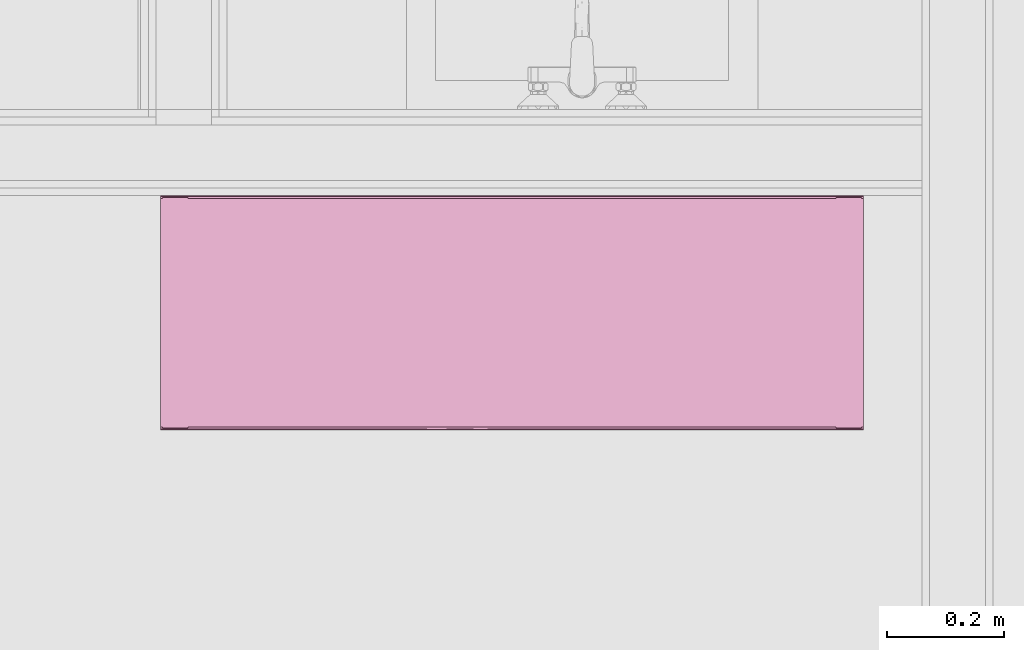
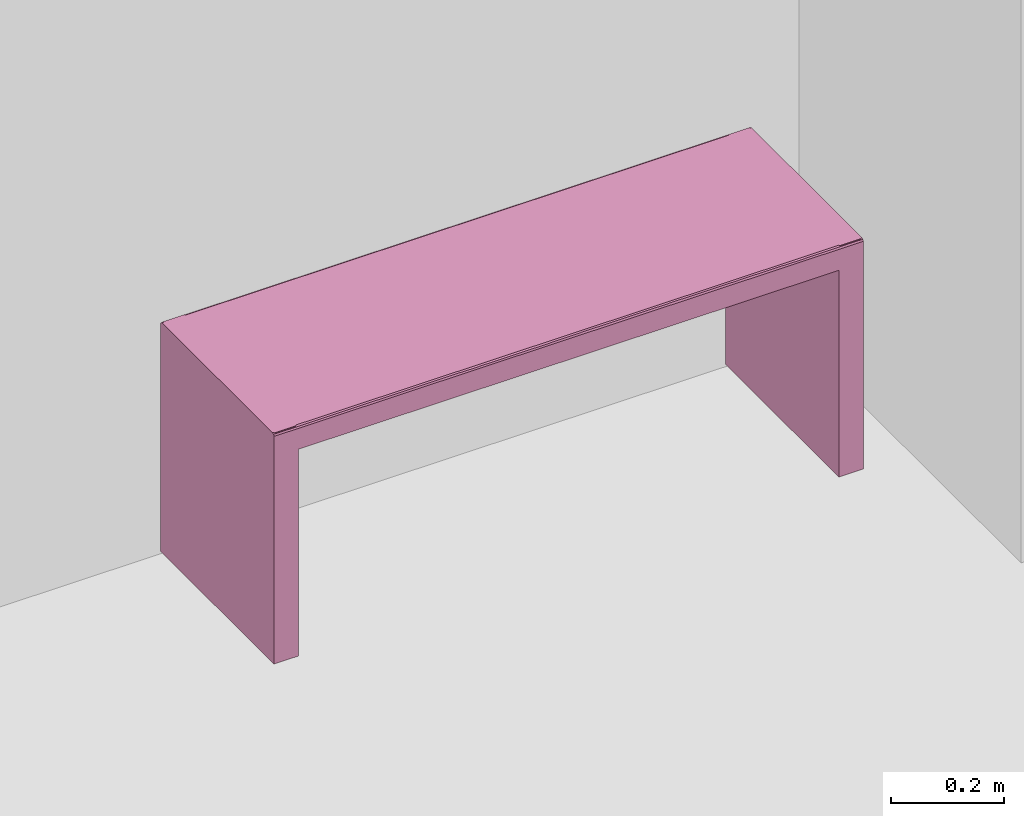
# One storey, part 35 of 67: 1 furniture element.
"""IFC4 building model written with IfcOpenShell, lengths in millimetres."""

from ifc_helpers import new_model, entity, si_unit, converted_unit, direction, frame, origin, place, context, subcontext, project, spatial, polygons, source, transform, mapped, material, type_object, type_shapes, element, save


model = new_model("IFC4")

# Units and contexts
model_context = context("Model", 3, precision=0.01, world=origin(), true_north=direction((0.0, 1.0)))
body_context = subcontext(model_context, "Body", "Model", "MODEL_VIEW")
ifc_project = project(units=[si_unit("LENGTHUNIT", "METRE", prefix="MILLI"), si_unit("AREAUNIT", "SQUARE_METRE"), si_unit("VOLUMEUNIT", "CUBIC_METRE"), converted_unit("PLANEANGLEUNIT", "DEGREE", entity("IfcPlaneAngleMeasure", 0.017453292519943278), si_unit("PLANEANGLEUNIT", "RADIAN"), dimensions=[0, 0, 0, 0, 0, 0, 0])], contexts=[model_context])

# Site, building, storey, space
site_placement = place(None, origin())
site = spatial("IfcSite", under=ifc_project, at=site_placement, Name="Tomtens navn", CompositionType="ELEMENT")
building_placement = place(site_placement, origin())
building = spatial("IfcBuilding", under=site, at=building_placement, Name="Byggets navn", CompositionType="ELEMENT")
storey_placement = place(building_placement, origin())
storey = spatial("IfcBuildingStorey", under=building, at=storey_placement, Name="Level 01", CompositionType="ELEMENT", Elevation=2.1993652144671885e-25)
space_placement = place(storey_placement, origin())
space = spatial("IfcSpace", under=storey, at=space_placement, Name="103", CompositionType="ELEMENT", PredefinedType="NOTDEFINED")

# Furniture
ifc_material = material(Name="PLANK_WOOD_NATURAL")
furniture_type = type_object("IfcFurnitureType", Name="PLANK_BENCH_TABLE:Benk 1200", AssemblyPlace="NOTDEFINED", PredefinedType="NOTDEFINED", material=ifc_material)
shared_shape = source(origin(), body_context, "Body", "Tessellation", [
    polygons([(-599.9999999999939, 200.00000000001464, 449.9999996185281), (-550.000008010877, 200.00000000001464, 449.9999996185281), (-550.000008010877, 200.00000000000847, 5.000115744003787), (-599.9999999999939, 200.00000000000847, 5.000115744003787), (-599.9999999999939, -199.99999999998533, 449.9999996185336), (-599.9999999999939, -199.99999999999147, 5.000115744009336), (-550.000008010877, -199.99999999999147, 5.000115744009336), (-550.000008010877, -199.99999999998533, 449.9999996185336)], [[[1, 2, 3, 4]], [[5, 6, 7, 8]], [[4, 6, 5, 1]], [[3, 7, 6, 4]], [[2, 8, 7, 3]], [[1, 5, 8, 2]]], closed=True),
    polygons([(-552.999970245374, 197.00000371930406, 449.99999961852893), (-596.9999734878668, 197.00000371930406, 449.99999961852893), (-596.9999734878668, 197.00000371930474, 500.0000000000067), (-552.999970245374, 197.00000371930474, 500.0000000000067), (-552.999970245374, -197.00000371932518, 449.99999961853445), (-552.999970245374, -197.0000037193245, 500.0000000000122), (-596.9999734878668, -197.0000037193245, 500.0000000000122), (-596.9999734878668, -197.00000371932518, 449.99999961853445)], [[[1, 2, 3, 4]], [[5, 6, 7, 8]], [[1, 5, 8, 2]], [[2, 8, 7, 3]], [[3, 7, 6, 4]], [[4, 6, 5, 1]]], closed=True),
    polygons([(552.9999702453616, 197.0000037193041, 449.99999961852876), (552.9999702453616, 197.00000371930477, 500.0000000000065), (596.9999734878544, 197.00000371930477, 500.0000000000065), (596.9999734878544, 197.0000037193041, 449.99999961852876), (552.9999702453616, -197.00000371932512, 449.9999996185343), (596.9999734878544, -197.00000371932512, 449.9999996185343), (596.9999734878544, -197.00000371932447, 500.00000000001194), (552.9999702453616, -197.00000371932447, 500.00000000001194)], [[[1, 2, 3, 4]], [[5, 6, 7, 8]], [[4, 6, 5, 1]], [[3, 7, 6, 4]], [[2, 8, 7, 3]], [[1, 5, 8, 2]]], closed=True),
    polygons([(550.0000080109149, 200.00000000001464, 449.999999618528), (-599.9999999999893, 200.00000000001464, 449.9999996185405), (-599.999999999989, 200.00000000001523, 494.9999999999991), (600.0000000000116, 200.00000000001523, 494.99999999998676), (600.0000000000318, 200.00000000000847, 5.000115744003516), (550.0000080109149, 200.00000000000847, 5.000115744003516), (600.0000000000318, -199.99999999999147, 5.000115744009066), (600.0000000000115, -199.9999999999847, 495.0000000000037), (-599.999999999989, -199.9999999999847, 495.000000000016), (-599.9999999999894, -199.99999999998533, 449.9999996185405), (550.0000080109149, -199.99999999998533, 449.99999961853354), (550.0000080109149, -199.99999999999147, 5.000115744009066), (600.0000000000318, 198.53553390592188, 498.5355339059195), (600.0000000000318, 194.9999999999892, 499.99999999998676), (600.0000000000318, -194.9999999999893, 500.0000000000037), (600.0000000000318, -198.535533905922, 498.53553390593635), (-599.9999999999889, -194.99999999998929, 500.00000000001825), (-599.9999999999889, 194.99999999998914, 499.9999999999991), (-599.9999999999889, 198.53553390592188, 498.53553390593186), (-599.9999999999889, -198.53553390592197, 498.5355339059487), (24.6151036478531, 199.99999999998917, 494.99999999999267), (1.1370104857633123e-11, 194.99999999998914, 499.99999999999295), (-287.6924599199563, 194.99999999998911, 499.99999999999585), (300.0000000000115, 194.99999999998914, 499.9999999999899), (150.00000000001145, 194.99999999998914, 499.9999999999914), (-287.6924596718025, 199.99999999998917, 494.9999999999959), (-131.5386780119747, 199.99999999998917, 494.99999999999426), (312.3075403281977, 199.99999999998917, 494.9999999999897), (-53.46178718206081, 199.99999999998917, 494.99999999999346), (-14.423353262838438, 199.99999999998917, 494.99999999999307), (168.4613219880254, 199.99999999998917, 494.99999999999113), (-143.84623334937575, 194.99999999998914, 499.9999999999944), (450.0000000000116, 194.99999999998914, 499.99999999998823), (-71.92311667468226, 194.99999999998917, 499.9999999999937), (456.1537586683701, 199.99999999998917, 494.99999999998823), (-443.84624133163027, 199.99999999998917, 494.9999999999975), (-443.8462333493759, 194.99999999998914, 499.99999999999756), (-521.9231166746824, 194.99999999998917, 499.99999999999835), (-521.923109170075, 199.99999999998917, 494.99999999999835), (521.923116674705, 194.99999999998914, 499.9999999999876), (528.0768678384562, 199.99999999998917, 494.9999999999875), (560.96154308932, 199.99999999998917, 494.99999999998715), (-365.7693500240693, 194.99999999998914, 499.99999999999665), (-365.76935050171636, 199.99999999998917, 494.9999999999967), (-326.730916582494, 199.99999999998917, 494.9999999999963), (-560.9615583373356, 194.99999999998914, 499.9999999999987), (560.9615583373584, 194.99999999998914, 499.99999999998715), (-560.9615660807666, 199.99999999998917, 494.99999999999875), (-215.7693432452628, 194.99999999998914, 499.99999999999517), (-209.61556884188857, 199.99999999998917, 494.99999999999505), (-170.5771349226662, 199.99999999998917, 494.99999999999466), (384.2306494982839, 199.99999999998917, 494.999999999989), (374.99999661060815, 194.99999999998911, 499.9999999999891), (337.49999830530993, 194.99999999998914, 499.9999999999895), (240.38443115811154, 199.99999999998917, 494.99999999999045), (225.00000338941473, 194.99999999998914, 499.9999999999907), (187.49999830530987, 194.99999999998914, 499.99999999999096), (96.53821281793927, 199.99999999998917, 494.999999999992), (74.99999661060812, 194.99999999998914, 499.99999999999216), (37.49999830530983, 194.99999999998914, 499.9999999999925), (204.42287657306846, 199.99999999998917, 494.9999999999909), (60.576658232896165, 199.99999999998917, 494.9999999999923), (-35.96155494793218, 194.99999999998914, 499.9999999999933), (544.5192217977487, 198.53553390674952, 498.5355339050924), (348.2690949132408, 199.99999999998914, 494.9999999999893), (-179.8077882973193, 194.99999999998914, 499.99999999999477), (492.11531325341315, 199.99999999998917, 494.9999999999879), (485.96156172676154, 194.99999999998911, 499.9999999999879), (514.5174586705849, 198.64836482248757, 498.41898144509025), (-197.78855943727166, 198.36873537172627, 498.6948101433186), (-248.654002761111, 199.99999999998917, 494.99999999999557), (-230.17118187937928, 198.65282205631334, 498.4142189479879), (-251.73089819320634, 194.99999999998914, 499.9999999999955), (-269.7116733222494, 198.5355339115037, 498.5355339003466), (-326.7309083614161, 194.99999999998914, 499.99999999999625), (-300.4128811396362, 198.53553392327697, 498.53553388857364), (-168.7248539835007, 198.42779241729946, 498.64008779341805), (467.9807794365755, 198.36873537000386, 498.6948101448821), (420.192204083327, 199.99999999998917, 494.9999999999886), (412.50000169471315, 194.99999999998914, 499.9999999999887), (436.36471083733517, 198.6021347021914, 498.4676541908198), (406.4506018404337, 198.66826976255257, 498.39761636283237), (-541.4423358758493, 198.53553378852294, 498.5355340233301), (366.24987998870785, 198.74797822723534, 498.3094802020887), (337.2407621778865, 198.64194644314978, 498.4258175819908), (-346.25011568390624, 198.5355339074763, 498.5355339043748), (-511.68307775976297, 198.53553370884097, 498.53553410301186), (-482.88467525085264, 199.99999999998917, 494.9999999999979), (-482.8846750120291, 194.99999999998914, 499.99999999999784), (-376.0093672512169, 198.53553391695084, 498.5355338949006), (-404.80779168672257, 194.99999999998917, 499.99999999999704), (-404.80778442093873, 199.99999999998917, 494.99999999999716), (-463.3654432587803, 198.53553389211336, 498.53553391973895), (-424.32700087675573, 198.53553389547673, 498.53553391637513), (42.595867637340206, 198.78978491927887, 498.2615226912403), (12.174105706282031, 198.54137012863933, 498.5296880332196), (71.68588318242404, 198.6340749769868, 498.4341664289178), (112.50000169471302, 194.99999999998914, 499.99999999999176), (132.4997674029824, 199.99999999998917, 494.9999999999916), (222.40365227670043, 198.80551094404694, 498.24315994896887), (262.50000169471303, 194.99999999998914, 499.9999999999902), (276.3459857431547, 199.99999999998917, 494.99999999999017), (252.36938878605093, 198.57180877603, 498.4988829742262), (193.1249998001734, 198.61985392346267, 498.44915316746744), (294.3267661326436, 198.78468027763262, 498.2674447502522), (-53.942331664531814, 198.23692520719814, 498.81081555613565), (-92.50022110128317, 199.99999999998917, 494.9999999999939), (-107.88467840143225, 194.99999999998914, 499.9999999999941), (-24.074026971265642, 198.4924386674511, 498.5781101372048), (-83.66541600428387, 198.48194058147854, 498.5883268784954), (-125.86544555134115, 198.26744476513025, 498.7846802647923), (572.2596108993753, 198.77366478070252, 498.28016068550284), (-570.7211680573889, 198.50202574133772, 498.5687274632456), (150.4805384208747, 198.81081557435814, 498.23692518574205), (120.8395405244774, 198.5940883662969, 498.47599321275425), (24.615082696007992, -194.9999999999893, 500.00000000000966), (1.12685860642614e-11, -199.99999999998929, 495.00000000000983), (-287.69245730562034, -199.99999999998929, 495.0000000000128), (300.00000000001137, -199.99999999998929, 495.00000000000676), (150.00000000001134, -199.99999999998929, 495.0000000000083), (-287.6924586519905, -194.99999999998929, 500.00000000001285), (-131.53868337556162, -194.99999999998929, 500.0000000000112), (312.3075413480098, -194.9999999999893, 500.00000000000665), (-53.46179573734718, -194.99999999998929, 500.0000000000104), (-14.423361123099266, -194.99999999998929, 500.00000000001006), (168.4613074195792, -194.99999999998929, 500.00000000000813), (-143.84622865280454, -199.99999999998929, 495.0000000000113), (450.00000000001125, -199.99999999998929, 495.00000000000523), (-71.92311432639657, -199.99999999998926, 495.0000000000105), (456.15377527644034, -194.9999999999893, 500.0000000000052), (-443.84623392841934, -194.9999999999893, 500.0000000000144), (-443.8462286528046, -199.9999999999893, 495.0000000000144), (-521.9231143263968, -199.99999999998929, 495.0000000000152), (-521.9231215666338, -194.99999999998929, 500.0000000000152), (521.9231143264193, -199.99999999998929, 495.0000000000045), (528.0768830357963, -194.99999999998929, 500.00000000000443), (560.9615561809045, -194.99999999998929, 500.0000000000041), (-365.7693429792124, -199.99999999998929, 495.00000000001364), (-365.7693462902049, -194.99999999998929, 500.0000000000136), (-326.73090247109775, -194.99999999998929, 500.0000000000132), (-560.9615571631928, -199.99999999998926, 495.0000000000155), (560.9615571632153, -199.99999999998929, 495.0000000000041), (-560.9615561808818, -194.99999999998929, 500.0000000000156), (-215.76934297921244, -199.99999999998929, 495.000000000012), (-209.61557101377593, -194.99999999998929, 500.000000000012), (-170.57712719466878, -194.99999999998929, 500.0000000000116), (384.2306583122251, -194.99999999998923, 500.0000000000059), (375.00000000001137, -199.99999999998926, 495.00000000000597), (337.50000000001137, -199.99999999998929, 495.0000000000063), (240.38442438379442, -194.99999999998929, 500.0000000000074), (225.0000000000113, -199.99999999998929, 495.0000000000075), (187.50000000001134, -199.99999999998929, 495.00000000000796), (96.53819966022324, -194.99999999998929, 500.0000000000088), (75.00000000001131, -199.99999999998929, 495.0000000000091), (37.500000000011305, -199.99999999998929, 495.00000000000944), (204.4228705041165, -194.99999999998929, 500.00000000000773), (60.576636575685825, -194.99999999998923, 500.00000000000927), (-35.96155716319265, -199.99999999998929, 495.00000000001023), (544.5192217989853, -198.5355339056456, 498.5355339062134), (348.2691044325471, -194.99999999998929, 500.00000000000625), (-179.80778581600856, -199.99999999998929, 495.0000000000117), (492.1153291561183, -194.99999999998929, 500.0000000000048), (485.96155716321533, -199.99999999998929, 495.00000000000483), (514.5174586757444, -198.4189814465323, 498.64836482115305), (-197.78855936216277, -198.6948101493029, 498.3687353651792), (-248.65401483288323, -194.99999999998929, 500.0000000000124), (-230.17118183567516, -198.4142189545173, 498.6528220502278), (-251.73090014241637, -199.9999999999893, 495.0000000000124), (-269.7116732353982, -198.5355339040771, 498.53553390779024), (-326.7309001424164, -199.99999999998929, 495.00000000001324), (-300.41288098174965, -198.535533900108, 498.53553391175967), (-168.72485391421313, -198.6400878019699, 498.4277924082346), (467.9807794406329, -198.69481014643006, 498.3687353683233), (420.1922121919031, -194.99999999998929, 500.0000000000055), (412.5000000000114, -199.9999999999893, 495.0000000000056), (436.3647108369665, -198.46765419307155, 498.6021347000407), (406.45060184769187, -198.3976163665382, 498.66826975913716), (-541.4423362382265, -198.5355339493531, 498.53553386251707), (366.24987996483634, -198.3094802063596, 498.747978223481), (337.2407621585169, -198.4258175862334, 498.641946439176), (-346.2501155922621, -198.53553390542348, 498.53553390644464), (-511.6830772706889, -198.53553398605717, 498.53553382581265), (-482.88467774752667, -194.99999999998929, 500.00000000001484), (-482.8846714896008, -199.99999999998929, 495.0000000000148), (-376.00936709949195, -198.53553390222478, 498.5355339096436), (-404.8077858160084, -199.99999999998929, 495.00000000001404), (-404.8077901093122, -194.99999999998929, 500.000000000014), (-463.36544329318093, -198.5355339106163, 498.535533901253), (-424.3270007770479, -198.5355339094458, 498.53553390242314), (42.59586757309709, -198.2615226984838, 498.78978491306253), (12.174105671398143, -198.52968804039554, 498.54137012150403), (71.68588311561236, -198.4341664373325, 498.63407496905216), (112.50000000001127, -199.99999999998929, 495.0000000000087), (132.49975353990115, -194.99999999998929, 500.0000000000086), (222.40365223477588, -198.24315995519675, 498.8055109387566), (262.5000000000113, -199.99999999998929, 495.0000000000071), (276.3459782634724, -194.99999999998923, 500.00000000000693), (252.36938874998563, -198.4988829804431, 498.57180876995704), (193.12499977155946, -198.44915317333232, 498.6198539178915), (294.3267660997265, -198.26744475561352, 498.7846802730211), (-53.94233161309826, -198.81081556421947, 498.23692519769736), (-92.50023955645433, -194.99999999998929, 500.0000000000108), (-107.88467148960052, -199.99999999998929, 495.0000000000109), (-24.0740269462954, -198.57811014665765, 498.4924386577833), (-83.6654159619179, -198.58832688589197, 498.48194057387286), (-125.86544548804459, -198.78468027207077, 498.26744475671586), (572.259610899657, -198.28016068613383, 498.77366478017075), (-570.721168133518, -198.56872744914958, 498.5020257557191), (150.48053836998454, -198.23692519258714, 498.81081556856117), (120.83954049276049, -198.47599321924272, 498.5940883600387)], [[[1, 2, 3, 48, 39, 88, 36, 92, 44, 45, 26, 71, 50, 51, 27, 107, 29, 30, 21, 62, 58, 99, 31, 61, 55, 102, 28, 65, 52, 79, 35, 67, 41, 42, 4, 5, 6]], [[10, 11, 12, 7, 8, 142, 135, 163, 128, 175, 148, 149, 119, 196, 151, 152, 120, 193, 154, 155, 117, 158, 129, 203, 127, 161, 144, 168, 118, 170, 138, 186, 132, 184, 133, 141, 9]], [[8, 7, 5, 4, 13, 14, 15, 16]], [[12, 6, 5, 7]], [[2, 1, 11, 10]], [[11, 1, 6, 12]], [[3, 2, 10, 9, 20, 17, 18, 19]], [[14, 47, 40, 68, 33, 80, 53, 54, 24, 101, 56, 57, 25, 98, 59, 60, 22, 63, 34, 108, 32, 66, 49, 73, 23, 75, 43, 91, 37, 89, 38, 46, 18, 17, 143, 134, 183, 131, 187, 139, 140, 121, 166, 145, 146, 122, 202, 124, 125, 116, 157, 153, 194, 126, 156, 150, 197, 123, 160, 147, 174, 130, 162, 136, 137, 15]], [[72, 49, 70]], [[86, 76, 74, 71, 26, 45, 44, 92, 36, 88, 39, 48, 83, 87, 93, 94, 90]], [[64, 42, 41]], [[40, 69, 68]], [[60, 95, 96]], [[101, 105, 103]], [[21, 96, 95]], [[69, 40, 64]], [[57, 104, 114]], [[48, 113, 83]], [[107, 111, 110]], [[56, 103, 100]], [[109, 96, 30]], [[106, 109, 29]], [[97, 115, 58]], [[29, 110, 106]], [[113, 48, 3]], [[106, 63, 109]], [[81, 82, 80]], [[76, 86, 90, 94, 93, 87, 83, 46, 38, 89, 37, 91, 43, 75, 23, 73, 74]], [[47, 64, 40]], [[70, 66, 77]], [[112, 47, 14]], [[112, 13, 4]], [[78, 69, 67]], [[47, 112, 64]], [[113, 19, 18]], [[46, 83, 113]], [[70, 77, 51]], [[81, 33, 78]], [[84, 65, 85]], [[84, 85, 54]], [[100, 61, 104]], [[103, 102, 55]], [[56, 100, 104]], [[105, 24, 85]], [[62, 21, 95]], [[95, 60, 97]], [[42, 64, 112]], [[61, 100, 55]], [[59, 98, 97, 60]], [[63, 106, 34]], [[69, 78, 68]], [[65, 84, 52]], [[66, 70, 49]], [[68, 78, 33]], [[69, 64, 41]], [[69, 41, 67]], [[73, 72, 74]], [[50, 70, 51]], [[35, 78, 67]], [[50, 72, 70]], [[71, 72, 50]], [[73, 49, 72]], [[71, 74, 72]], [[51, 77, 27]], [[77, 66, 32]], [[82, 84, 53]], [[81, 79, 82]], [[35, 81, 78]], [[33, 81, 80]], [[79, 81, 35]], [[80, 82, 53]], [[82, 79, 52]], [[52, 84, 82]], [[53, 84, 54]], [[54, 85, 24]], [[85, 65, 28]], [[97, 62, 95]], [[22, 60, 96]], [[63, 22, 109]], [[96, 21, 30]], [[97, 58, 62]], [[114, 115, 25]], [[99, 115, 114]], [[99, 114, 31]], [[57, 56, 104]], [[56, 101, 103]], [[55, 100, 103]], [[102, 105, 28]], [[105, 102, 103]], [[25, 57, 114]], [[104, 61, 31]], [[28, 105, 85]], [[101, 24, 105]], [[111, 27, 77]], [[30, 29, 109]], [[29, 107, 110]], [[34, 106, 110]], [[108, 111, 32]], [[96, 109, 22]], [[110, 108, 34]], [[111, 108, 110]], [[32, 111, 77]], [[107, 27, 111]], [[42, 112, 4]], [[14, 13, 112]], [[46, 113, 18]], [[3, 19, 113]], [[31, 114, 104]], [[98, 25, 115]], [[98, 115, 97]], [[115, 99, 58]], [[167, 144, 165]], [[181, 171, 169, 166, 121, 140, 139, 187, 131, 183, 134, 143, 178, 182, 188, 189, 185]], [[159, 137, 136]], [[135, 164, 163]], [[155, 190, 191]], [[196, 200, 198]], [[116, 191, 190]], [[164, 135, 159]], [[152, 199, 209]], [[143, 208, 178]], [[202, 206, 205]], [[151, 198, 195]], [[204, 191, 125]], [[201, 204, 124]], [[192, 210, 153]], [[124, 205, 201]], [[208, 143, 17]], [[201, 158, 204]], [[176, 177, 175]], [[171, 181, 185, 189, 188, 182, 178, 141, 133, 184, 132, 186, 138, 170, 118, 168, 169]], [[142, 159, 135]], [[165, 161, 172]], [[207, 142, 8]], [[207, 16, 15]], [[173, 164, 162]], [[142, 207, 159]], [[208, 20, 9]], [[141, 178, 208]], [[165, 172, 146]], [[176, 128, 173]], [[179, 160, 180]], [[179, 180, 149]], [[195, 156, 199]], [[198, 197, 150]], [[151, 195, 199]], [[200, 119, 180]], [[157, 116, 190]], [[190, 155, 192]], [[137, 159, 207]], [[156, 195, 150]], [[154, 193, 192, 155]], [[158, 201, 129]], [[164, 173, 163]], [[160, 179, 147]], [[161, 165, 144]], [[163, 173, 128]], [[164, 159, 136]], [[164, 136, 162]], [[168, 167, 169]], [[145, 165, 146]], [[130, 173, 162]], [[145, 167, 165]], [[166, 167, 145]], [[168, 144, 167]], [[166, 169, 167]], [[146, 172, 122]], [[172, 161, 127]], [[177, 179, 148]], [[176, 174, 177]], [[130, 176, 173]], [[128, 176, 175]], [[174, 176, 130]], [[175, 177, 148]], [[177, 174, 147]], [[147, 179, 177]], [[148, 179, 149]], [[149, 180, 119]], [[180, 160, 123]], [[192, 157, 190]], [[117, 155, 191]], [[158, 117, 204]], [[191, 116, 125]], [[192, 153, 157]], [[209, 210, 120]], [[194, 210, 209]], [[194, 209, 126]], [[152, 151, 199]], [[151, 196, 198]], [[150, 195, 198]], [[197, 200, 123]], [[200, 197, 198]], [[120, 152, 209]], [[199, 156, 126]], [[123, 200, 180]], [[196, 119, 200]], [[206, 122, 172]], [[125, 124, 204]], [[124, 202, 205]], [[129, 201, 205]], [[203, 206, 127]], [[191, 204, 117]], [[205, 203, 129]], [[206, 203, 205]], [[127, 206, 172]], [[202, 122, 206]], [[137, 207, 15]], [[8, 16, 207]], [[141, 208, 9]], [[17, 20, 208]], [[126, 209, 199]], [[193, 120, 210]], [[193, 210, 192]], [[210, 194, 153]]], closed=True),
])
type_shapes(furniture_type, [shared_shape])
furniture_placement = place(space_placement, frame((61165.35352810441, 19854.466456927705, 0.0)))
element("IfcFurniture", 1, at=furniture_placement, inside=space, type_object=furniture_type, material=ifc_material, Name="PLANK_BENCH_TABLE:Benk 1200", PredefinedType="NOTDEFINED", context=body_context, shape_type="MappedRepresentation", body=[
    mapped(shared_shape, transform((0.0, 0.0, 0.0), scale=1.0)),
])

save(model, "model.ifc")
